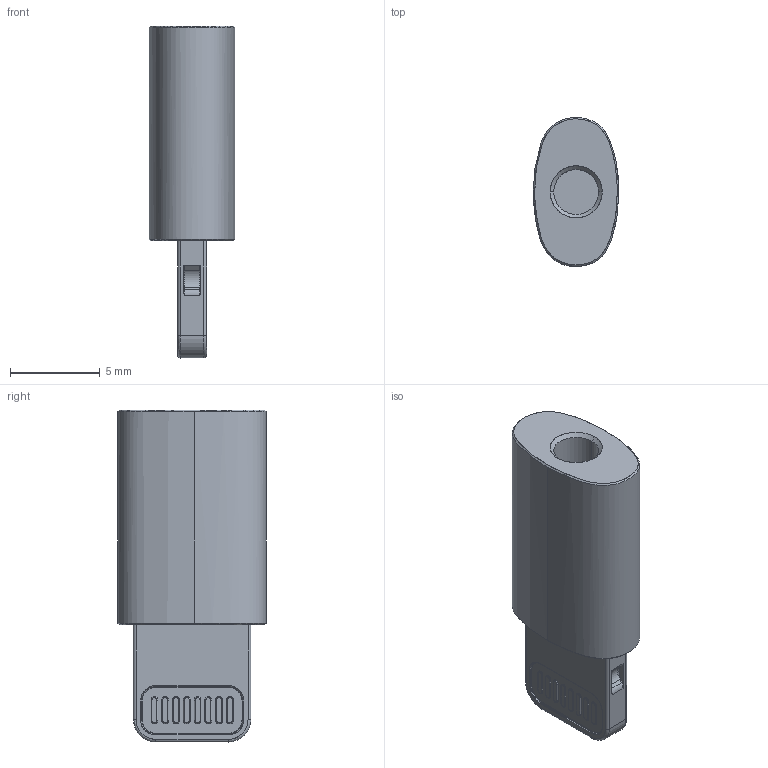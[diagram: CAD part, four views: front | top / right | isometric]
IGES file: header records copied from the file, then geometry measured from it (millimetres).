
Start section: SolidWorks IGES file using analytic representation for surfaces
Global section: file name: E:\juarez\desenhos\solidworks\lightning\IGES_lightning_connector.IGS; native system: SolidWorks 2013; preprocessor: SolidWorks 2013; author: Juarez-scn; date: 140605.084923; units: millimetre
Bounding box: 4.78 x 8.28 x 18.47 mm (x, y, z)
Surface area: 472.5 mm2 (no closed solid volume)
Topology: 0 solids, 0 shells, 257 faces, 2098 edges, 2098 vertices
Faces by surface type: bspline 145, revolution 112
